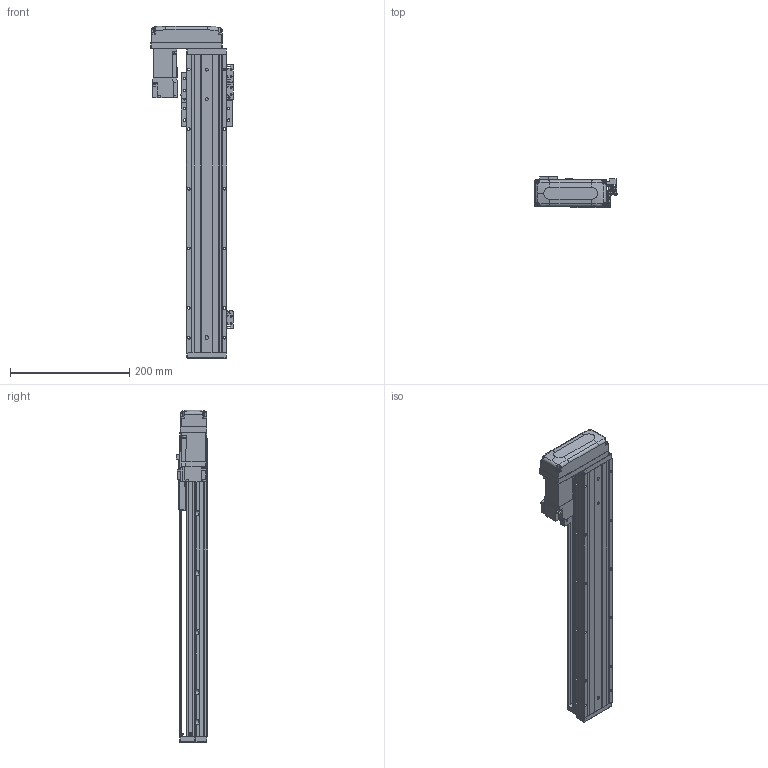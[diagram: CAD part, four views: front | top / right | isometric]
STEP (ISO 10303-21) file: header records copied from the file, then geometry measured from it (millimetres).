
FILE_DESCRIPTION (( 'STEP AP203' ), '1' );
FILE_NAME ('KTHAL60-350-BR-M10-C4L.step', '2022-03-19T08:44:16', ( '微软用户' ), ( '微软中国' ), 'SwSTEP 2.0', 'SolidWorks 2020', '' );
FILE_SCHEMA (( 'CONFIG_CONTROL_DESIGN' ));
Length unit declared in the file: millimetre
Products named in the file (18): GBT77-2000M3-3; EE_SX911P_R; KTHAL60-350-BR-M10-C4L; KTHA60-001_500; GBT 70.1-M3℅6; CTHA60-017; KTHLA60-002; CTHA60-016; KTHA60-004; HG-KR13（三菱）; KTHA60-005; CTHA60-015-2_CTHA60-015-2; CTHA60-021; GB¨uT 70.2-M3¡Á5_M3¡Á6; CTHA60-033; GBT 70.1-M4×16; GBT 70.3-M3℅6; GBT 70.1-M3×15
Assembly tree (51 placements, depth 2):
  KTHAL60-350-BR-M10-C4L
    KTHA60-001_500
    KTHLA60-002
    KTHA60-004
    KTHA60-005
    GB¨uT 70.2-M3¡Á5_M3¡Á6  x5
    GBT 70.3-M3℅6  x4
    EE_SX911P_R  x3
    CTHA60-017  x3
    CTHA60-021  x2
    GBT 70.1-M4×16  x10
    GBT77-2000M3-3  x6
    GBT 70.1-M3℅6  x6
    CTHA60-016
    HG-KR13（三菱）
    CTHA60-015-2_CTHA60-015-2
    CTHA60-033
    GBT 70.1-M3×15  x4
Bounding box: 137.82 x 52.3 x 557 mm (x, y, z)
Volume: 1288560.8 mm3; surface area: 317911.4 mm2
Topology: 54 solids, 54 shells, 2275 faces, 5387 edges, 3305 vertices
Faces by surface type: plane 1300, cylinder 553, cone 284, torus 98, bspline 26, sphere 14
Entity records: 39347 total; most frequent: CARTESIAN_POINT 7448, DIRECTION 6133, ORIENTED_EDGE 5918, EDGE_CURVE 2959, AXIS2_PLACEMENT_3D 2057, LINE 2019, VECTOR 2019, VERTEX_POINT 1854
